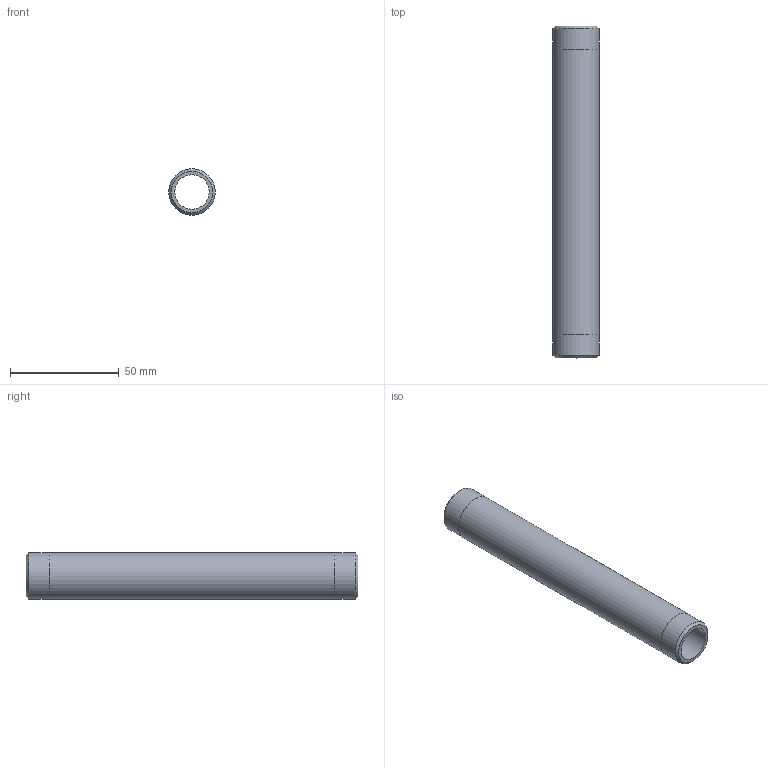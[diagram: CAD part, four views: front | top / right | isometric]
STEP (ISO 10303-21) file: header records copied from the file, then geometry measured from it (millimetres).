
FILE_DESCRIPTION(/* description */ (''),/* implementation_level */ '2;1');
FILE_NAME(/* name */ 'C:/Users/drich/Desktop/BPN12-6 v1.step',/* time_stamp */ '2020-01-03T14:33:57-06:00',/* author */ (''),/* organization */ (''),/* preprocessor_version */ 'ST-DEVELOPER v18',/* originating_system */ 'Autodesk Translation Framework v8.12.0.6',/* authorisation */ '');
FILE_SCHEMA (('AUTOMOTIVE_DESIGN { 1 0 10303 214 3 1 1 }'));
Length unit declared in the file: inch
Products named in the file (1): BPN12-6
Bounding box: 21.34 x 152.4 x 21.34 mm (x, y, z)
Volume: 24491.4 mm3; surface area: 18006 mm2
Topology: 1 solids, 1 shells, 10 faces, 24 edges, 18 vertices
Faces by surface type: cylinder 4, plane 4, cone 2
Full cylindrical faces by diameter (mm): 15.799 x1, 21.285 x2, 21.336 x1
Entity records: 360 total; most frequent: DIRECTION 64, CARTESIAN_POINT 53, ORIENTED_EDGE 48, AXIS2_PLACEMENT_3D 29, EDGE_CURVE 24, CIRCLE 18, VERTEX_POINT 18, EDGE_LOOP 14
